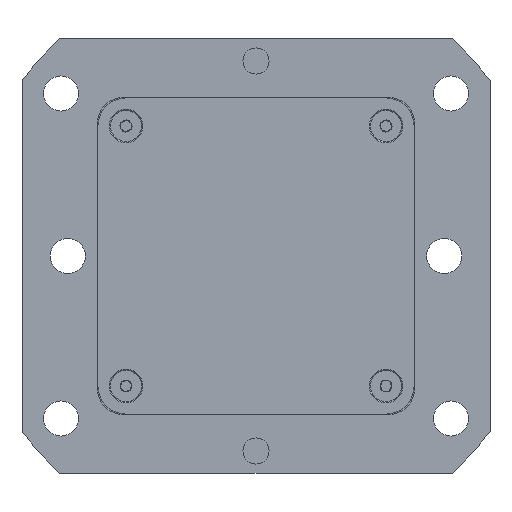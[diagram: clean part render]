
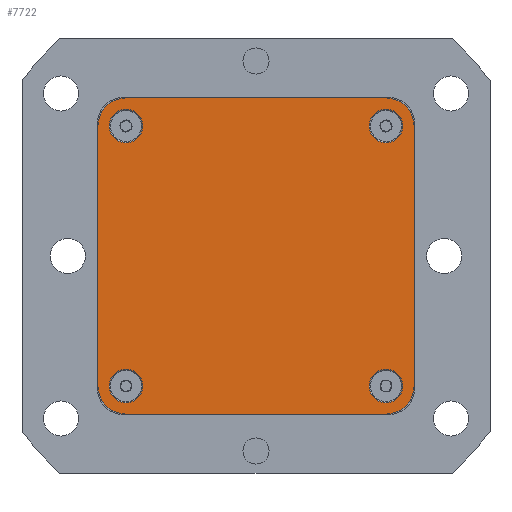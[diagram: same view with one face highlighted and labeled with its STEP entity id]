
A CAD part, front view. The second image highlights one B-rep face of the part: STEP entity #7722.
In plain terms, the highlighted planar face has unit normal (0, -1, 0).
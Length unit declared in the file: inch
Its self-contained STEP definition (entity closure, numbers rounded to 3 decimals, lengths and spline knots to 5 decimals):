
#62 = EDGE_CURVE ( 'NONE', #4580, #4580, #2721, .T. ) ;
#258 = LINE ( 'NONE', #2762, #10537 ) ;
#397 = LINE ( 'NONE', #10333, #4222 ) ;
#410 = CARTESIAN_POINT ( 'NONE',  ( -1.9725, 0., 1.9725 ) ) ;
#618 = DIRECTION ( 'NONE',  ( 0., 0., 1. ) ) ;
#709 = EDGE_LOOP ( 'NONE', ( #9316 ) ) ;
#795 = AXIS2_PLACEMENT_3D ( 'NONE', #9856, #7482, #2425 ) ;
#845 = CIRCLE ( 'NONE', #8971, 0.255 ) ;
#997 = CIRCLE ( 'NONE', #7595, 0.255 ) ;
#1132 = CIRCLE ( 'NONE', #795, 0.42 ) ;
#1400 = ORIENTED_EDGE ( 'NONE', *, *, #2059, .F. ) ;
#1694 = AXIS2_PLACEMENT_3D ( 'NONE', #5084, #1812, #8385 ) ;
#1812 = DIRECTION ( 'NONE',  ( 0., -1., 0. ) ) ;
#1849 = EDGE_CURVE ( 'NONE', #6439, #10436, #258, .T. ) ;
#1852 = ORIENTED_EDGE ( 'NONE', *, *, #5694, .F. ) ;
#1867 = EDGE_CURVE ( 'NONE', #7146, #7146, #845, .T. ) ;
#1913 = VERTEX_POINT ( 'NONE', #3508 ) ;
#1971 = DIRECTION ( 'NONE',  ( 0., 1., 0. ) ) ;
#2036 = CARTESIAN_POINT ( 'NONE',  ( 1.9685, 0., -2.2235 ) ) ;
#2059 = EDGE_CURVE ( 'NONE', #7947, #7947, #2577, .T. ) ;
#2165 = CIRCLE ( 'NONE', #9432, 0.42 ) ;
#2261 = CARTESIAN_POINT ( 'NONE',  ( 1.9725, 0., 2.3925 ) ) ;
#2425 = DIRECTION ( 'NONE',  ( 0., 0., 1. ) ) ;
#2433 = DIRECTION ( 'NONE',  ( 0., -1., 0. ) ) ;
#2489 = DIRECTION ( 'NONE',  ( 0., 0., -1. ) ) ;
#2577 = CIRCLE ( 'NONE', #9851, 0.255 ) ;
#2721 = CIRCLE ( 'NONE', #1694, 0.255 ) ;
#2762 = CARTESIAN_POINT ( 'NONE',  ( -1.9725, 0., 2.3925 ) ) ;
#2813 = VERTEX_POINT ( 'NONE', #9575 ) ;
#3041 = EDGE_CURVE ( 'NONE', #10183, #4859, #10256, .T. ) ;
#3126 = FACE_BOUND ( 'NONE', #9833, .T. ) ;
#3143 = DIRECTION ( 'NONE',  ( -1., 0., 0. ) ) ;
#3179 = DIRECTION ( 'NONE',  ( 0., -1., 0. ) ) ;
#3293 = DIRECTION ( 'NONE',  ( 0., 0., -1. ) ) ;
#3486 = CARTESIAN_POINT ( 'NONE',  ( 1.9725, 0., -1.9725 ) ) ;
#3508 = CARTESIAN_POINT ( 'NONE',  ( -1.9725, 0., -2.3925 ) ) ;
#3693 = VERTEX_POINT ( 'NONE', #4410 ) ;
#3739 = EDGE_CURVE ( 'NONE', #4338, #10183, #5376, .T. ) ;
#4123 = CARTESIAN_POINT ( 'NONE',  ( -1.9685, 0., -1.9685 ) ) ;
#4222 = VECTOR ( 'NONE', #618, 39.37008 ) ;
#4239 = EDGE_CURVE ( 'NONE', #8842, #2813, #397, .T. ) ;
#4292 = DIRECTION ( 'NONE',  ( 0., -1., 0. ) ) ;
#4338 = VERTEX_POINT ( 'NONE', #8058 ) ;
#4342 = CARTESIAN_POINT ( 'NONE',  ( -1.9685, 0., 1.9685 ) ) ;
#4376 = CARTESIAN_POINT ( 'NONE',  ( 1.9685, 0., 1.9685 ) ) ;
#4410 = CARTESIAN_POINT ( 'NONE',  ( 1.9685, 0., 1.7135 ) ) ;
#4452 = DIRECTION ( 'NONE',  ( 1., 0., 0. ) ) ;
#4526 = DIRECTION ( 'NONE',  ( 0., 0., -1. ) ) ;
#4580 = VERTEX_POINT ( 'NONE', #2036 ) ;
#4641 = CARTESIAN_POINT ( 'NONE',  ( -1.9685, 0., 1.7135 ) ) ;
#4667 = DIRECTION ( 'NONE',  ( 0., 1., 0. ) ) ;
#4859 = VERTEX_POINT ( 'NONE', #7857 ) ;
#4867 = CARTESIAN_POINT ( 'NONE',  ( -1.9685, 0., -2.2235 ) ) ;
#4888 = FACE_BOUND ( 'NONE', #5795, .T. ) ;
#5015 = AXIS2_PLACEMENT_3D ( 'NONE', #410, #4667, #5480 ) ;
#5084 = CARTESIAN_POINT ( 'NONE',  ( 1.9685, 0., -1.9685 ) ) ;
#5214 = CARTESIAN_POINT ( 'NONE',  ( 2.3925, 0., 1.9725 ) ) ;
#5311 = VECTOR ( 'NONE', #3143, 39.37008 ) ;
#5376 = LINE ( 'NONE', #5214, #9929 ) ;
#5480 = DIRECTION ( 'NONE',  ( 0., 0., -1. ) ) ;
#5510 = ORIENTED_EDGE ( 'NONE', *, *, #1849, .F. ) ;
#5694 = EDGE_CURVE ( 'NONE', #4859, #1913, #6480, .T. ) ;
#5795 = EDGE_LOOP ( 'NONE', ( #6303 ) ) ;
#5878 = CIRCLE ( 'NONE', #5015, 0.42 ) ;
#5990 = ORIENTED_EDGE ( 'NONE', *, *, #9176, .F. ) ;
#6228 = DIRECTION ( 'NONE',  ( 0., 0., -1. ) ) ;
#6266 = ORIENTED_EDGE ( 'NONE', *, *, #4239, .F. ) ;
#6290 = CARTESIAN_POINT ( 'NONE',  ( -1.9725, 0., 2.3925 ) ) ;
#6303 = ORIENTED_EDGE ( 'NONE', *, *, #6883, .F. ) ;
#6439 = VERTEX_POINT ( 'NONE', #6290 ) ;
#6480 = LINE ( 'NONE', #8797, #5311 ) ;
#6883 = EDGE_CURVE ( 'NONE', #3693, #3693, #997, .T. ) ;
#6889 = DIRECTION ( 'NONE',  ( 0., 0., -1. ) ) ;
#7070 = CARTESIAN_POINT ( 'NONE',  ( -2.3925, 0., -1.9725 ) ) ;
#7146 = VERTEX_POINT ( 'NONE', #4641 ) ;
#7166 = ORIENTED_EDGE ( 'NONE', *, *, #3041, .F. ) ;
#7482 = DIRECTION ( 'NONE',  ( 0., 1., 0. ) ) ;
#7595 = AXIS2_PLACEMENT_3D ( 'NONE', #4376, #7690, #6228 ) ;
#7609 = DIRECTION ( 'NONE',  ( 0., 0., -1. ) ) ;
#7654 = EDGE_CURVE ( 'NONE', #2813, #6439, #5878, .T. ) ;
#7690 = DIRECTION ( 'NONE',  ( 0., -1., 0. ) ) ;
#7722 = ADVANCED_FACE ( 'NONE', ( #8829, #4888, #9909, #3126, #10618 ), #8994, .T. ) ;
#7857 = CARTESIAN_POINT ( 'NONE',  ( 1.9725, 0., -2.3925 ) ) ;
#7947 = VERTEX_POINT ( 'NONE', #4867 ) ;
#8058 = CARTESIAN_POINT ( 'NONE',  ( 2.3925, 0., 1.9725 ) ) ;
#8236 = CARTESIAN_POINT ( 'NONE',  ( -1.9725, 0., 1.9725 ) ) ;
#8385 = DIRECTION ( 'NONE',  ( 0., 0., -1. ) ) ;
#8401 = CARTESIAN_POINT ( 'NONE',  ( 2.3925, 0., -1.9725 ) ) ;
#8486 = EDGE_CURVE ( 'NONE', #1913, #8842, #2165, .T. ) ;
#8558 = DIRECTION ( 'NONE',  ( 0., 0., -1. ) ) ;
#8691 = ORIENTED_EDGE ( 'NONE', *, *, #8486, .F. ) ;
#8797 = CARTESIAN_POINT ( 'NONE',  ( -1.9725, 0., -2.3925 ) ) ;
#8829 = FACE_BOUND ( 'NONE', #10212, .T. ) ;
#8842 = VERTEX_POINT ( 'NONE', #7070 ) ;
#8971 = AXIS2_PLACEMENT_3D ( 'NONE', #4342, #4292, #7609 ) ;
#8994 = PLANE ( 'NONE',  #10313 ) ;
#9176 = EDGE_CURVE ( 'NONE', #10436, #4338, #1132, .T. ) ;
#9178 = ORIENTED_EDGE ( 'NONE', *, *, #7654, .F. ) ;
#9237 = DIRECTION ( 'NONE',  ( 0., 1., 0. ) ) ;
#9316 = ORIENTED_EDGE ( 'NONE', *, *, #62, .F. ) ;
#9390 = CARTESIAN_POINT ( 'NONE',  ( -1.9725, 0., -1.9725 ) ) ;
#9432 = AXIS2_PLACEMENT_3D ( 'NONE', #9390, #1971, #4526 ) ;
#9559 = AXIS2_PLACEMENT_3D ( 'NONE', #3486, #9237, #6889 ) ;
#9575 = CARTESIAN_POINT ( 'NONE',  ( -2.3925, 0., 1.9725 ) ) ;
#9592 = ORIENTED_EDGE ( 'NONE', *, *, #3739, .F. ) ;
#9833 = EDGE_LOOP ( 'NONE', ( #1400 ) ) ;
#9851 = AXIS2_PLACEMENT_3D ( 'NONE', #4123, #3179, #3293 ) ;
#9856 = CARTESIAN_POINT ( 'NONE',  ( 1.9725, 0., 1.9725 ) ) ;
#9909 = FACE_BOUND ( 'NONE', #709, .T. ) ;
#9929 = VECTOR ( 'NONE', #8558, 39.37008 ) ;
#10183 = VERTEX_POINT ( 'NONE', #8401 ) ;
#10212 = EDGE_LOOP ( 'NONE', ( #10524 ) ) ;
#10256 = CIRCLE ( 'NONE', #9559, 0.42 ) ;
#10313 = AXIS2_PLACEMENT_3D ( 'NONE', #8236, #2433, #2489 ) ;
#10333 = CARTESIAN_POINT ( 'NONE',  ( -2.3925, 0., 1.9725 ) ) ;
#10354 = EDGE_LOOP ( 'NONE', ( #9178, #6266, #8691, #1852, #7166, #9592, #5990, #5510 ) ) ;
#10436 = VERTEX_POINT ( 'NONE', #2261 ) ;
#10524 = ORIENTED_EDGE ( 'NONE', *, *, #1867, .F. ) ;
#10537 = VECTOR ( 'NONE', #4452, 39.37008 ) ;
#10618 = FACE_OUTER_BOUND ( 'NONE', #10354, .T. ) ;
